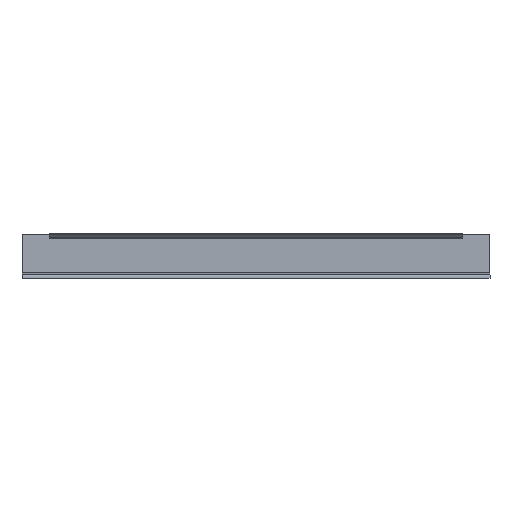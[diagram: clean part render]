
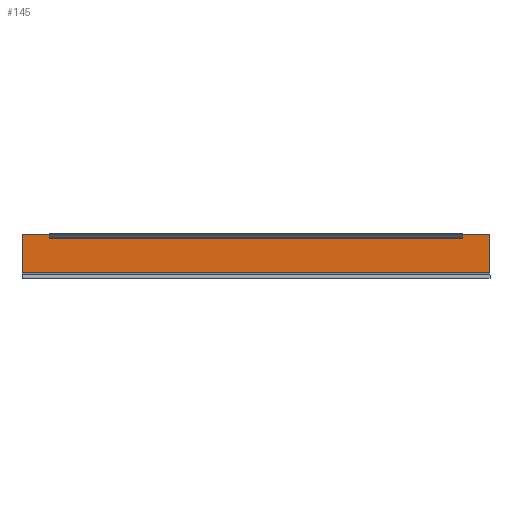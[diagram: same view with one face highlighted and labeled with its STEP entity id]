
A CAD part, left-side view. The second image highlights one B-rep face of the part: STEP entity #145.
In plain terms, the highlighted planar face has unit normal (-1, 0, 0).
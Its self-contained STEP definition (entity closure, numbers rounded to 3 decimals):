
#5 = EDGE_CURVE ( 'NONE', #265, #268, #97, .T. ) ;
#7 = EDGE_CURVE ( 'NONE', #268, #257, #99, .T. ) ;
#10 = EDGE_CURVE ( 'NONE', #266, #254, #92, .T. ) ;
#12 = EDGE_CURVE ( 'NONE', #266, #265, #89, .T. ) ;
#32 = EDGE_CURVE ( 'NONE', #252, #257, #114, .T. ) ;
#34 = EDGE_CURVE ( 'NONE', #252, #280, #49, .T. ) ;
#48 = VECTOR ( 'NONE', #337, 1000. ) ;
#49 = LINE ( 'NONE', #336, #48 ) ;
#56 = VECTOR ( 'NONE', #333, 1000. ) ;
#84 = VECTOR ( 'NONE', #294, 1000. ) ;
#86 = VECTOR ( 'NONE', #292, 1000. ) ;
#89 = LINE ( 'NONE', #291, #84 ) ;
#92 = LINE ( 'NONE', #289, #86 ) ;
#93 = VECTOR ( 'NONE', #286, 1000. ) ;
#96 = VECTOR ( 'NONE', #282, 1000. ) ;
#97 = LINE ( 'NONE', #246, #96 ) ;
#99 = LINE ( 'NONE', #283, #93 ) ;
#106 = EDGE_LOOP ( 'NONE', ( #157, #195, #194, #199, #178, #177, #167, #193 ) ) ;
#114 = LINE ( 'NONE', #332, #56 ) ;
#145 = ADVANCED_FACE ( 'NONE', ( #536 ), #406, .T. ) ;
#157 = ORIENTED_EDGE ( 'NONE', *, *, #34, .F. ) ;
#167 = ORIENTED_EDGE ( 'NONE', *, *, #616, .T. ) ;
#177 = ORIENTED_EDGE ( 'NONE', *, *, #10, .T. ) ;
#178 = ORIENTED_EDGE ( 'NONE', *, *, #12, .F. ) ;
#193 = ORIENTED_EDGE ( 'NONE', *, *, #638, .T. ) ;
#194 = ORIENTED_EDGE ( 'NONE', *, *, #7, .F. ) ;
#195 = ORIENTED_EDGE ( 'NONE', *, *, #32, .T. ) ;
#199 = ORIENTED_EDGE ( 'NONE', *, *, #5, .F. ) ;
#246 = CARTESIAN_POINT ( 'NONE',  ( 6.024, 579.5, -8.71 ) ) ;
#252 = VERTEX_POINT ( 'NONE', #417 ) ;
#254 = VERTEX_POINT ( 'NONE', #416 ) ;
#257 = VERTEX_POINT ( 'NONE', #426 ) ;
#265 = VERTEX_POINT ( 'NONE', #434 ) ;
#266 = VERTEX_POINT ( 'NONE', #435 ) ;
#268 = VERTEX_POINT ( 'NONE', #437 ) ;
#280 = VERTEX_POINT ( 'NONE', #449 ) ;
#281 = VERTEX_POINT ( 'NONE', #450 ) ;
#282 = DIRECTION ( 'NONE',  ( 0., -1., 0. ) ) ;
#283 = CARTESIAN_POINT ( 'NONE',  ( 6.024, 34., -2.932 ) ) ;
#286 = DIRECTION ( 'NONE',  ( 0., 0., 1. ) ) ;
#289 = CARTESIAN_POINT ( 'NONE',  ( 6.024, 579.5, -4.106 ) ) ;
#291 = CARTESIAN_POINT ( 'NONE',  ( 6.024, 545.5, -2.932 ) ) ;
#292 = DIRECTION ( 'NONE',  ( 0., 1., 0. ) ) ;
#294 = DIRECTION ( 'NONE',  ( 0., 0., -1. ) ) ;
#332 = CARTESIAN_POINT ( 'NONE',  ( 6.024, 579.5, -4.106 ) ) ;
#333 = DIRECTION ( 'NONE',  ( 0., 1., 0. ) ) ;
#336 = CARTESIAN_POINT ( 'NONE',  ( 6.024, 0., -9.925 ) ) ;
#337 = DIRECTION ( 'NONE',  ( 0., 0., -1. ) ) ;
#406 = PLANE ( 'NONE',  #585 ) ;
#409 = CARTESIAN_POINT ( 'NONE',  ( 6.024, 579.5, -9.925 ) ) ;
#416 = CARTESIAN_POINT ( 'NONE',  ( 6.024, 579.5, -4.106 ) ) ;
#417 = CARTESIAN_POINT ( 'NONE',  ( 6.024, 0., -4.106 ) ) ;
#418 = DIRECTION ( 'NONE',  ( -1., 0., 0. ) ) ;
#419 = DIRECTION ( 'NONE',  ( 0., 0., -1. ) ) ;
#426 = CARTESIAN_POINT ( 'NONE',  ( 6.024, 34., -4.106 ) ) ;
#434 = CARTESIAN_POINT ( 'NONE',  ( 6.024, 545.5, -8.71 ) ) ;
#435 = CARTESIAN_POINT ( 'NONE',  ( 6.024, 545.5, -4.106 ) ) ;
#437 = CARTESIAN_POINT ( 'NONE',  ( 6.024, 34., -8.71 ) ) ;
#449 = CARTESIAN_POINT ( 'NONE',  ( 6.024, 0., -51.31 ) ) ;
#450 = CARTESIAN_POINT ( 'NONE',  ( 6.024, 579.5, -51.31 ) ) ;
#464 = CARTESIAN_POINT ( 'NONE',  ( 6.024, 579.5, -51.31 ) ) ;
#475 = CARTESIAN_POINT ( 'NONE',  ( 6.024, 579.5, -8.71 ) ) ;
#476 = DIRECTION ( 'NONE',  ( 0., 0., -1. ) ) ;
#498 = DIRECTION ( 'NONE',  ( 0., -1., 0. ) ) ;
#536 = FACE_OUTER_BOUND ( 'NONE', #106, .T. ) ;
#553 = LINE ( 'NONE', #475, #554 ) ;
#554 = VECTOR ( 'NONE', #476, 1000. ) ;
#557 = LINE ( 'NONE', #464, #573 ) ;
#573 = VECTOR ( 'NONE', #498, 1000. ) ;
#585 = AXIS2_PLACEMENT_3D ( 'NONE', #409, #418, #419 ) ;
#616 = EDGE_CURVE ( 'NONE', #254, #281, #553, .T. ) ;
#638 = EDGE_CURVE ( 'NONE', #281, #280, #557, .T. ) ;
